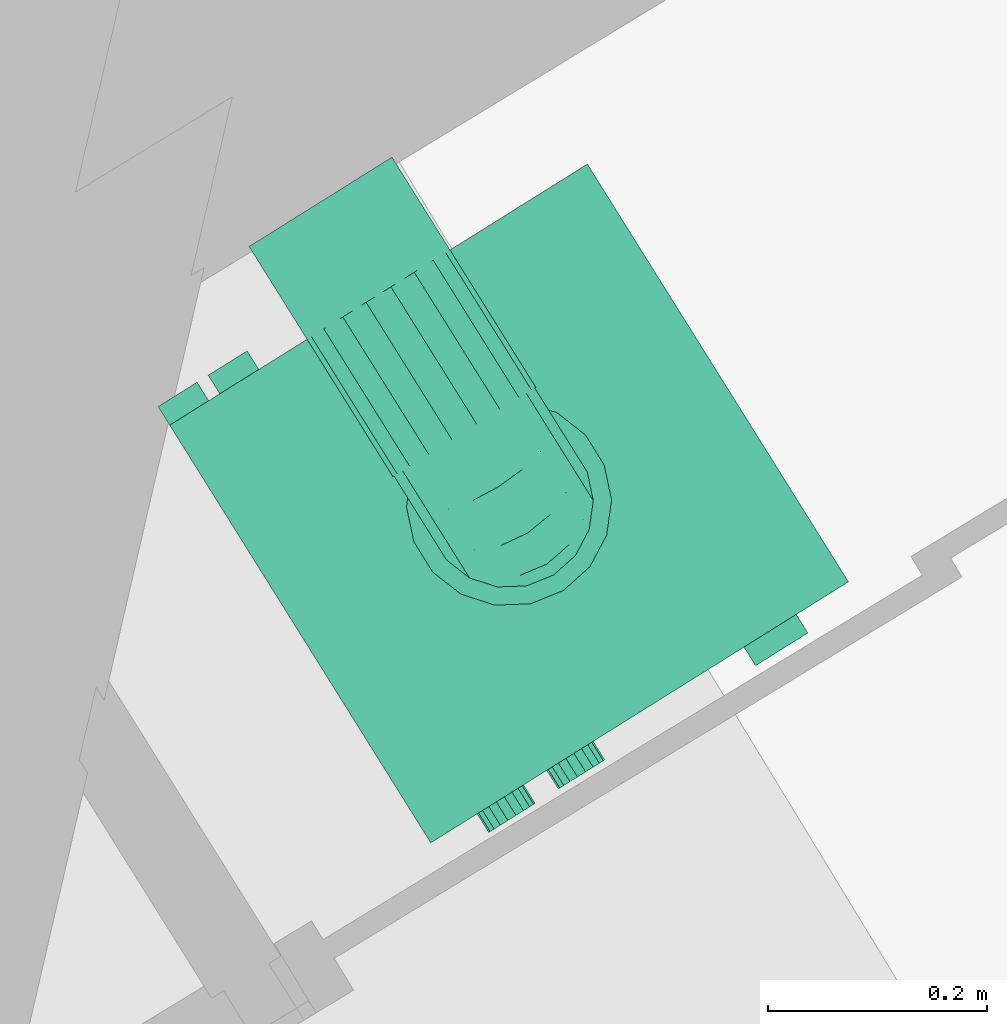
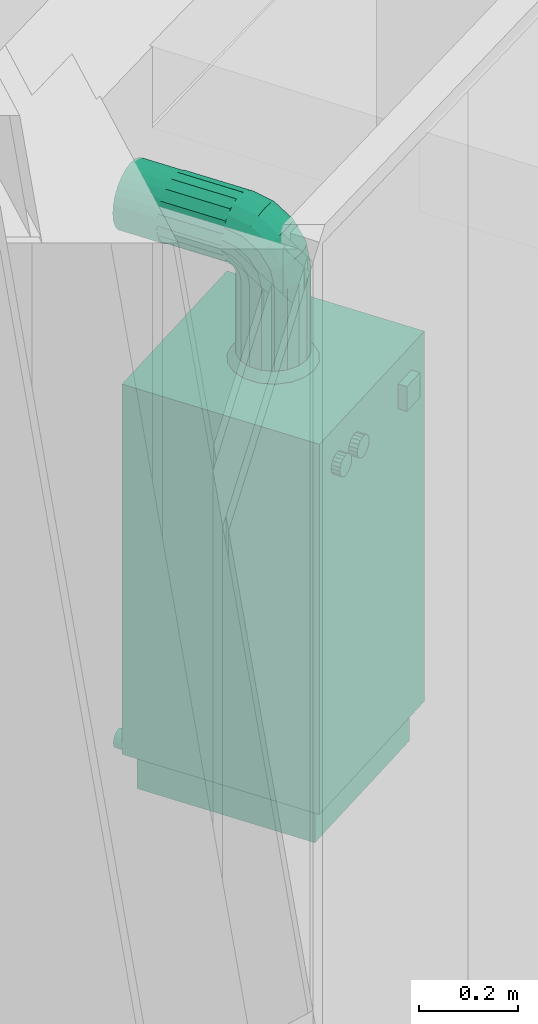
# One storey, part 83 of 90: 1 energy conversion device.
"""IFC2X3 building model written with IfcOpenShell, lengths in metres."""

from ifc_helpers import new_model, entity, si_unit, converted_unit, derived_unit, money_unit, direction, frame, origin_with_axes, place, context, subcontext, project, spatial, open_shell, faceted_brep, surface_model, source, transform, mapped, type_object, element, save


model = new_model("IFC2X3")

# Units and contexts
model_context = context("Model", 3, precision=1e-05, world=origin_with_axes(), true_north=direction((0.0, 1.0)))
body_context = subcontext(model_context, "Body", "Model", "MODEL_VIEW")
ifc_project = project(units=[si_unit("LENGTHUNIT", "METRE"), si_unit("AREAUNIT", "SQUARE_METRE"), si_unit("VOLUMEUNIT", "CUBIC_METRE"), converted_unit("PLANEANGLEUNIT", "DEGREE", entity("IfcPlaneAngleMeasure", 0.0174532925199), si_unit("PLANEANGLEUNIT", "RADIAN"), dimensions=[0, 0, 0, 0, 0, 0, 0]), si_unit("SOLIDANGLEUNIT", "STERADIAN"), money_unit("EUR"), converted_unit("TIMEUNIT", "Year", entity("IfcTimeMeasure", 31556926.0), si_unit("TIMEUNIT", "SECOND"), dimensions=[0, 0, 1, 0, 0, 0, 0]), si_unit("MASSUNIT", "GRAM", prefix="KILO"), si_unit("THERMODYNAMICTEMPERATUREUNIT", "DEGREE_CELSIUS"), si_unit("LUMINOUSINTENSITYUNIT", "LUMEN"), si_unit("ENERGYUNIT", "JOULE", prefix="MEGA"), derived_unit("THERMALCONDUCTANCEUNIT", [(si_unit("POWERUNIT", "WATT"), 1), (si_unit("LENGTHUNIT", "METRE"), -1), (si_unit("THERMODYNAMICTEMPERATUREUNIT", "KELVIN"), -1)]), derived_unit("SPECIFICHEATCAPACITYUNIT", [(si_unit("ENERGYUNIT", "JOULE"), 1), (si_unit("MASSUNIT", "GRAM", prefix="KILO"), -1), (si_unit("THERMODYNAMICTEMPERATUREUNIT", "KELVIN"), -1)]), derived_unit("MASSDENSITYUNIT", [(si_unit("MASSUNIT", "GRAM", prefix="KILO"), 1), (si_unit("VOLUMEUNIT", "CUBIC_METRE"), -1)])], contexts=[model_context])

# Site, building, storey
site_placement = place(None, origin_with_axes())
site = spatial("IfcSite", under=ifc_project, at=site_placement, Name="Site", CompositionType="ELEMENT")
building_placement = place(site_placement, origin_with_axes())
building = spatial("IfcBuilding", under=site, at=building_placement, Name="Bâtiment", CompositionType="ELEMENT")
storey_placement = place(building_placement, frame((0.0, 0.0, 2.72), z_axis=(0.0, 0.0, 1.0), x_axis=(1.0, 0.0, 0.0)))
storey = spatial("IfcBuildingStorey", under=building, at=storey_placement, Name="R+1", CompositionType="ELEMENT", Elevation=2.72)

# Energy conversion device
boiler_type = type_object("IfcBoilerType", Name="Chaudière à gaz 23", PredefinedType="WATER")
shared_shape = source(origin_with_axes(), body_context, "Body", "SurfaceModel", [
    surface_model("IfcShellBasedSurfaceModel", [(-0.2, 0.45, 0.090909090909), (-0.2, 0.47, 0.090909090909), (-0.194564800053, 0.47, 0.0916246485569), (-0.194564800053, 0.45, 0.0916246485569), (-0.205435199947, 0.45, 0.0916246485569), (-0.205435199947, 0.47, 0.0916246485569), (-0.1895, 0.47, 0.0937225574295), (-0.1895, 0.45, 0.0937225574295), (-0.2105, 0.45, 0.0937225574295), (-0.2105, 0.47, 0.0937225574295), (-0.185150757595, 0.47, 0.0970598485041), (-0.185150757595, 0.45, 0.0970598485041), (-0.214849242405, 0.45, 0.0970598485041), (-0.214849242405, 0.47, 0.0970598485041), (-0.181813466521, 0.47, 0.101409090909), (-0.181813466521, 0.45, 0.101409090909), (-0.218186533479, 0.45, 0.101409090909), (-0.218186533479, 0.47, 0.101409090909), (-0.179715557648, 0.47, 0.106473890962), (-0.179715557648, 0.45, 0.106473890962), (-0.220284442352, 0.45, 0.106473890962), (-0.220284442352, 0.47, 0.106473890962), (-0.179, 0.47, 0.111909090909), (-0.179, 0.45, 0.111909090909), (-0.221, 0.45, 0.111909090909), (-0.221, 0.47, 0.111909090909), (-0.179715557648, 0.47, 0.117344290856), (-0.179715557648, 0.45, 0.117344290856), (-0.220284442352, 0.45, 0.117344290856), (-0.220284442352, 0.47, 0.117344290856), (-0.181813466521, 0.47, 0.122409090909), (-0.181813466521, 0.45, 0.122409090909), (-0.218186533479, 0.45, 0.122409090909), (-0.218186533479, 0.47, 0.122409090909), (-0.185150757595, 0.47, 0.126758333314), (-0.185150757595, 0.45, 0.126758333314), (-0.214849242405, 0.45, 0.126758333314), (-0.214849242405, 0.47, 0.126758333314), (-0.1895, 0.47, 0.130095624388), (-0.1895, 0.45, 0.130095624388), (-0.2105, 0.45, 0.130095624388), (-0.2105, 0.47, 0.130095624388), (-0.194564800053, 0.47, 0.132193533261), (-0.194564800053, 0.45, 0.132193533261), (-0.205435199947, 0.45, 0.132193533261), (-0.205435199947, 0.47, 0.132193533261), (-0.2, 0.47, 0.132909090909), (-0.2, 0.45, 0.132909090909)], [open_shell([[[0, 1, 2, 3]], [[4, 5, 1, 0]], [[3, 2, 6, 7]], [[8, 9, 5, 4]], [[7, 6, 10, 11]], [[12, 13, 9, 8]], [[11, 10, 14, 15]], [[16, 17, 13, 12]], [[15, 14, 18, 19]], [[20, 21, 17, 16]], [[19, 18, 22, 23]], [[24, 25, 21, 20]], [[23, 22, 26, 27]], [[28, 29, 25, 24]], [[27, 26, 30, 31]], [[32, 33, 29, 28]], [[31, 30, 34, 35]], [[36, 37, 33, 32]], [[35, 34, 38, 39]], [[40, 41, 37, 36]], [[39, 38, 42, 43]], [[44, 45, 41, 40]], [[43, 42, 46, 47]], [[47, 46, 45, 44]]])]),
    surface_model("IfcShellBasedSurfaceModel", [(-0.375, 0.45, 0.090909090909), (-0.375, 0.47, 0.090909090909), (-0.369564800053, 0.47, 0.0916246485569), (-0.369564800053, 0.45, 0.0916246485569), (-0.380435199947, 0.45, 0.0916246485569), (-0.380435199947, 0.47, 0.0916246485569), (-0.3645, 0.47, 0.0937225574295), (-0.3645, 0.45, 0.0937225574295), (-0.3855, 0.45, 0.0937225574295), (-0.3855, 0.47, 0.0937225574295), (-0.360150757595, 0.47, 0.0970598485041), (-0.360150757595, 0.45, 0.0970598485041), (-0.389849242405, 0.45, 0.0970598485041), (-0.389849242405, 0.47, 0.0970598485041), (-0.356813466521, 0.47, 0.101409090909), (-0.356813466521, 0.45, 0.101409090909), (-0.393186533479, 0.45, 0.101409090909), (-0.393186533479, 0.47, 0.101409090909), (-0.354715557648, 0.47, 0.106473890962), (-0.354715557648, 0.45, 0.106473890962), (-0.395284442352, 0.45, 0.106473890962), (-0.395284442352, 0.47, 0.106473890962), (-0.354, 0.47, 0.111909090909), (-0.354, 0.45, 0.111909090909), (-0.396, 0.45, 0.111909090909), (-0.396, 0.47, 0.111909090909), (-0.354715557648, 0.47, 0.117344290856), (-0.354715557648, 0.45, 0.117344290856), (-0.395284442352, 0.45, 0.117344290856), (-0.395284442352, 0.47, 0.117344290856), (-0.356813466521, 0.47, 0.122409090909), (-0.356813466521, 0.45, 0.122409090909), (-0.393186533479, 0.45, 0.122409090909), (-0.393186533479, 0.47, 0.122409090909), (-0.360150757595, 0.47, 0.126758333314), (-0.360150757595, 0.45, 0.126758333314), (-0.389849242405, 0.45, 0.126758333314), (-0.389849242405, 0.47, 0.126758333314), (-0.3645, 0.47, 0.130095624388), (-0.3645, 0.45, 0.130095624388), (-0.3855, 0.45, 0.130095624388), (-0.3855, 0.47, 0.130095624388), (-0.369564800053, 0.47, 0.132193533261), (-0.369564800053, 0.45, 0.132193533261), (-0.380435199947, 0.45, 0.132193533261), (-0.380435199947, 0.47, 0.132193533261), (-0.375, 0.47, 0.132909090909), (-0.375, 0.45, 0.132909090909)], [open_shell([[[0, 1, 2, 3]], [[4, 5, 1, 0]], [[3, 2, 6, 7]], [[8, 9, 5, 4]], [[7, 6, 10, 11]], [[12, 13, 9, 8]], [[11, 10, 14, 15]], [[16, 17, 13, 12]], [[15, 14, 18, 19]], [[20, 21, 17, 16]], [[19, 18, 22, 23]], [[24, 25, 21, 20]], [[23, 22, 26, 27]], [[28, 29, 25, 24]], [[27, 26, 30, 31]], [[32, 33, 29, 28]], [[31, 30, 34, 35]], [[36, 37, 33, 32]], [[35, 34, 38, 39]], [[40, 41, 37, 36]], [[39, 38, 42, 43]], [[44, 45, 41, 40]], [[43, 42, 46, 47]], [[47, 46, 45, 44]]])]),
    surface_model("IfcShellBasedSurfaceModel", [(-0.429, 0.45, 0.090909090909), (-0.429, 0.47, 0.090909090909), (-0.423564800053, 0.47, 0.0916246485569), (-0.423564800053, 0.45, 0.0916246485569), (-0.434435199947, 0.45, 0.0916246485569), (-0.434435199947, 0.47, 0.0916246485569), (-0.4185, 0.47, 0.0937225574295), (-0.4185, 0.45, 0.0937225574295), (-0.4395, 0.45, 0.0937225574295), (-0.4395, 0.47, 0.0937225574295), (-0.414150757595, 0.47, 0.0970598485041), (-0.414150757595, 0.45, 0.0970598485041), (-0.443849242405, 0.45, 0.0970598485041), (-0.443849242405, 0.47, 0.0970598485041), (-0.410813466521, 0.47, 0.101409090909), (-0.410813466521, 0.45, 0.101409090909), (-0.447186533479, 0.45, 0.101409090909), (-0.447186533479, 0.47, 0.101409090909), (-0.408715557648, 0.47, 0.106473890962), (-0.408715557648, 0.45, 0.106473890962), (-0.449284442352, 0.45, 0.106473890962), (-0.449284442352, 0.47, 0.106473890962), (-0.408, 0.47, 0.111909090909), (-0.408, 0.45, 0.111909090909), (-0.45, 0.45, 0.111909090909), (-0.45, 0.47, 0.111909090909), (-0.408715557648, 0.47, 0.117344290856), (-0.408715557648, 0.45, 0.117344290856), (-0.449284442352, 0.45, 0.117344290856), (-0.449284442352, 0.47, 0.117344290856), (-0.410813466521, 0.47, 0.122409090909), (-0.410813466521, 0.45, 0.122409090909), (-0.447186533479, 0.45, 0.122409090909), (-0.447186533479, 0.47, 0.122409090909), (-0.414150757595, 0.47, 0.126758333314), (-0.414150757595, 0.45, 0.126758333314), (-0.443849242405, 0.45, 0.126758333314), (-0.443849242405, 0.47, 0.126758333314), (-0.4185, 0.47, 0.130095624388), (-0.4185, 0.45, 0.130095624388), (-0.4395, 0.45, 0.130095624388), (-0.4395, 0.47, 0.130095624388), (-0.423564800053, 0.47, 0.132193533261), (-0.423564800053, 0.45, 0.132193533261), (-0.434435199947, 0.45, 0.132193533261), (-0.434435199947, 0.47, 0.132193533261), (-0.429, 0.47, 0.132909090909), (-0.429, 0.45, 0.132909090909)], [open_shell([[[0, 1, 2, 3]], [[4, 5, 1, 0]], [[3, 2, 6, 7]], [[8, 9, 5, 4]], [[7, 6, 10, 11]], [[12, 13, 9, 8]], [[11, 10, 14, 15]], [[16, 17, 13, 12]], [[15, 14, 18, 19]], [[20, 21, 17, 16]], [[19, 18, 22, 23]], [[24, 25, 21, 20]], [[23, 22, 26, 27]], [[28, 29, 25, 24]], [[27, 26, 30, 31]], [[32, 33, 29, 28]], [[31, 30, 34, 35]], [[36, 37, 33, 32]], [[35, 34, 38, 39]], [[40, 41, 37, 36]], [[39, 38, 42, 43]], [[44, 45, 41, 40]], [[43, 42, 46, 47]], [[47, 46, 45, 44]]])]),
    surface_model("IfcShellBasedSurfaceModel", [(-0.225, 0.45, 1.218), (-0.225, 0.55, 1.218), (-0.205070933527, 0.55, 1.22062371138), (-0.205070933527, 0.45, 1.22062371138), (-0.244929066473, 0.45, 1.22062371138), (-0.244929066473, 0.55, 1.22062371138), (-0.1865, 0.55, 1.22831604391), (-0.1865, 0.45, 1.22831604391), (-0.2635, 0.45, 1.22831604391), (-0.2635, 0.55, 1.22831604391), (-0.170552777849, 0.55, 1.24055277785), (-0.170552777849, 0.45, 1.24055277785), (-0.279447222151, 0.45, 1.24055277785), (-0.279447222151, 0.55, 1.24055277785), (-0.158316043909, 0.55, 1.2565), (-0.158316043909, 0.45, 1.2565), (-0.291683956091, 0.45, 1.2565), (-0.291683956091, 0.55, 1.2565), (-0.150623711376, 0.55, 1.27507093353), (-0.150623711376, 0.45, 1.27507093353), (-0.299376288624, 0.45, 1.27507093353), (-0.299376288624, 0.55, 1.27507093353), (-0.148, 0.55, 1.295), (-0.148, 0.45, 1.295), (-0.302, 0.45, 1.295), (-0.302, 0.55, 1.295), (-0.150623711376, 0.55, 1.31492906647), (-0.150623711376, 0.45, 1.31492906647), (-0.299376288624, 0.45, 1.31492906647), (-0.299376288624, 0.55, 1.31492906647), (-0.158316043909, 0.55, 1.3335), (-0.158316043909, 0.45, 1.3335), (-0.291683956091, 0.45, 1.3335), (-0.291683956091, 0.55, 1.3335), (-0.170552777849, 0.55, 1.34944722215), (-0.170552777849, 0.45, 1.34944722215), (-0.279447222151, 0.45, 1.34944722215), (-0.279447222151, 0.55, 1.34944722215), (-0.1865, 0.55, 1.36168395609), (-0.1865, 0.45, 1.36168395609), (-0.2635, 0.45, 1.36168395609), (-0.2635, 0.55, 1.36168395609), (-0.205070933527, 0.55, 1.36937628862), (-0.205070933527, 0.45, 1.36937628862), (-0.244929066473, 0.45, 1.36937628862), (-0.244929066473, 0.55, 1.36937628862), (-0.225, 0.55, 1.372), (-0.225, 0.45, 1.372)], [open_shell([[[0, 1, 2, 3]], [[4, 5, 1, 0]], [[3, 2, 6, 7]], [[8, 9, 5, 4]], [[7, 6, 10, 11]], [[12, 13, 9, 8]], [[11, 10, 14, 15]], [[16, 17, 13, 12]], [[15, 14, 18, 19]], [[20, 21, 17, 16]], [[19, 18, 22, 23]], [[24, 25, 21, 20]], [[23, 22, 26, 27]], [[28, 29, 25, 24]], [[27, 26, 30, 31]], [[32, 33, 29, 28]], [[31, 30, 34, 35]], [[36, 37, 33, 32]], [[35, 34, 38, 39]], [[40, 41, 37, 36]], [[39, 38, 42, 43]], [[44, 45, 41, 40]], [[43, 42, 46, 47]], [[47, 46, 45, 44]]])]),
    faceted_brep([(-0.4275, 0.0225, 0.0), (-0.4275, 0.4275, 0.0), (-0.0225, 0.4275, 0.0), (-0.0225, 0.0225, 0.0), (-0.4275, 0.0225, 0.0909090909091), (-0.4275, 0.4275, 0.0909090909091), (-0.0225, 0.4275, 0.0909090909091), (-0.0225, 0.0225, 0.0909090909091)], [[[0, 1, 2, 3]], [[0, 4, 5, 1]], [[1, 5, 6, 2]], [[2, 6, 7, 3]], [[3, 7, 4, 0]], [[7, 6, 5, 4]]]),
    faceted_brep([(0.0, 0.45, 0.0909090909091), (-0.45, 0.45, 0.0909090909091), (-0.45, 0.45, 1.0), (0.0, 0.45, 1.0), (0.0, 0.0, 0.0909090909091), (-0.45, 0.0, 0.0909090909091), (-0.45, 0.0, 0.818181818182), (-0.45, 0.0225, 0.818181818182), (-0.45, 0.0225, 1.0), (0.0, 0.0225, 1.0), (0.0, 0.0225, 0.818181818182), (0.0, 0.0, 0.818181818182)], [[[0, 1, 2, 3]], [[4, 5, 1, 0]], [[1, 5, 6, 7, 8, 2]], [[3, 2, 8, 9]], [[0, 3, 9, 10, 11, 4]], [[11, 6, 5, 4]], [[10, 7, 6, 11]], [[9, 8, 7, 10]]]),
    faceted_brep([(-0.45, 0.0, 0.818181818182), (-0.45, 0.0225, 0.818181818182), (0.0, 0.0225, 0.818181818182), (0.0, 0.0, 0.818181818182), (-0.45, 0.0, 1.0), (-0.45, 0.0225, 1.0), (0.0, 0.0225, 1.0), (0.0, 0.0, 1.0)], [[[0, 1, 2, 3]], [[0, 4, 5, 1]], [[1, 5, 6, 2]], [[2, 6, 7, 3]], [[3, 7, 4, 0]], [[7, 6, 5, 4]]]),
    faceted_brep([(-0.32349231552, 0.0, 0.900540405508), (-0.325, 0.0, 0.909090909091), (-0.32349231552, 0.0, 0.917641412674), (-0.319151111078, 0.0, 0.925160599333), (-0.3125, 0.0, 0.930741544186), (-0.304341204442, 0.0, 0.933711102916), (-0.295658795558, 0.0, 0.933711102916), (-0.2875, 0.0, 0.930741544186), (-0.280848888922, 0.0, 0.925160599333), (-0.27650768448, 0.0, 0.917641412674), (-0.275, 0.0, 0.909090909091), (-0.27650768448, 0.0, 0.900540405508), (-0.280848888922, 0.0, 0.893021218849), (-0.2875, 0.0, 0.887440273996), (-0.295658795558, 0.0, 0.884470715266), (-0.304341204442, 0.0, 0.884470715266), (-0.3125, 0.0, 0.887440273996), (-0.319151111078, 0.0, 0.893021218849), (-0.32349231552, -0.02, 0.900540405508), (-0.325, -0.02, 0.909090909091), (-0.32349231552, -0.02, 0.917641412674), (-0.319151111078, -0.02, 0.925160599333), (-0.3125, -0.02, 0.930741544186), (-0.304341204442, -0.02, 0.933711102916), (-0.295658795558, -0.02, 0.933711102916), (-0.2875, -0.02, 0.930741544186), (-0.280848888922, -0.02, 0.925160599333), (-0.27650768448, -0.02, 0.917641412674), (-0.275, -0.02, 0.909090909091), (-0.27650768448, -0.02, 0.900540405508), (-0.280848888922, -0.02, 0.893021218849), (-0.2875, -0.02, 0.887440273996), (-0.295658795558, -0.02, 0.884470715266), (-0.304341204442, -0.02, 0.884470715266), (-0.3125, -0.02, 0.887440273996), (-0.319151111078, -0.02, 0.893021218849)], [[[0, 1, 2, 3, 4, 5, 6, 7, 8, 9, 10, 11, 12, 13, 14, 15, 16, 17]], [[0, 18, 19, 1]], [[1, 19, 20, 2]], [[2, 20, 21, 3]], [[3, 21, 22, 4]], [[4, 22, 23, 5]], [[5, 23, 24, 6]], [[6, 24, 25, 7]], [[7, 25, 26, 8]], [[8, 26, 27, 9]], [[9, 27, 28, 10]], [[10, 28, 29, 11]], [[11, 29, 30, 12]], [[12, 30, 31, 13]], [[13, 31, 32, 14]], [[14, 32, 33, 15]], [[15, 33, 34, 16]], [[16, 34, 35, 17]], [[17, 35, 18, 0]], [[18, 35, 34, 33, 32, 31, 30, 29, 28, 27, 26, 25, 24, 23, 22, 21, 20, 19]]]),
    faceted_brep([(-0.39849231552, 0.0, 0.900540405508), (-0.4, 0.0, 0.909090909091), (-0.39849231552, 0.0, 0.917641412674), (-0.394151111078, 0.0, 0.925160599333), (-0.3875, 0.0, 0.930741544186), (-0.379341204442, 0.0, 0.933711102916), (-0.370658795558, 0.0, 0.933711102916), (-0.3625, 0.0, 0.930741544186), (-0.355848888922, 0.0, 0.925160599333), (-0.35150768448, 0.0, 0.917641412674), (-0.35, 0.0, 0.909090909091), (-0.35150768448, 0.0, 0.900540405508), (-0.355848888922, 0.0, 0.893021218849), (-0.3625, 0.0, 0.887440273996), (-0.370658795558, 0.0, 0.884470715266), (-0.379341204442, 0.0, 0.884470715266), (-0.3875, 0.0, 0.887440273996), (-0.394151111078, 0.0, 0.893021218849), (-0.39849231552, -0.02, 0.900540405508), (-0.4, -0.02, 0.909090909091), (-0.39849231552, -0.02, 0.917641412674), (-0.394151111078, -0.02, 0.925160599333), (-0.3875, -0.02, 0.930741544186), (-0.379341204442, -0.02, 0.933711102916), (-0.370658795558, -0.02, 0.933711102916), (-0.3625, -0.02, 0.930741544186), (-0.355848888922, -0.02, 0.925160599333), (-0.35150768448, -0.02, 0.917641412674), (-0.35, -0.02, 0.909090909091), (-0.35150768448, -0.02, 0.900540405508), (-0.355848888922, -0.02, 0.893021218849), (-0.3625, -0.02, 0.887440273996), (-0.370658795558, -0.02, 0.884470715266), (-0.379341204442, -0.02, 0.884470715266), (-0.3875, -0.02, 0.887440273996), (-0.394151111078, -0.02, 0.893021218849)], [[[0, 1, 2, 3, 4, 5, 6, 7, 8, 9, 10, 11, 12, 13, 14, 15, 16, 17]], [[0, 18, 19, 1]], [[1, 19, 20, 2]], [[2, 20, 21, 3]], [[3, 21, 22, 4]], [[4, 22, 23, 5]], [[5, 23, 24, 6]], [[6, 24, 25, 7]], [[7, 25, 26, 8]], [[8, 26, 27, 9]], [[9, 27, 28, 10]], [[10, 28, 29, 11]], [[11, 29, 30, 12]], [[12, 30, 31, 13]], [[13, 31, 32, 14]], [[14, 32, 33, 15]], [[15, 33, 34, 16]], [[16, 34, 35, 17]], [[17, 35, 18, 0]], [[18, 35, 34, 33, 32, 31, 30, 29, 28, 27, 26, 25, 24, 23, 22, 21, 20, 19]]]),
    faceted_brep([(-0.1125, 0.0, 0.878787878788), (-0.1125, 0.0, 0.939393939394), (-0.05625, 0.0, 0.939393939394), (-0.05625, 0.0, 0.878787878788), (-0.1125, -0.02, 0.878787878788), (-0.1125, -0.02, 0.939393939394), (-0.05625, -0.02, 0.939393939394), (-0.05625, -0.02, 0.878787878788)], [[[0, 1, 2, 3]], [[0, 4, 5, 1]], [[1, 5, 6, 2]], [[2, 6, 7, 3]], [[3, 7, 4, 0]], [[7, 6, 5, 4]]]),
    surface_model("IfcShellBasedSurfaceModel", [(-0.198664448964, 0.297356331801, 1.22), (-0.198664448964, 0.297356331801, 1.02), (-0.225, 0.302, 1.02), (-0.225, 0.302, 1.22), (-0.175505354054, 0.28398542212, 1.22), (-0.175505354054, 0.28398542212, 1.02), (-0.192935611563, 0.313096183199, 1.0), (-0.225, 0.31875, 1.0), (-0.251335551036, 0.297356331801, 1.02), (-0.251335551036, 0.297356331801, 1.22), (-0.158316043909, 0.2635, 1.22), (-0.158316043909, 0.2635, 1.02), (-0.164738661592, 0.296816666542, 1.0), (-0.257064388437, 0.313096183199, 1.0), (-0.274494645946, 0.28398542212, 1.02), (-0.274494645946, 0.28398542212, 1.22), (-0.149169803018, 0.23837090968, 1.22), (-0.149169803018, 0.23837090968, 1.02), (-0.143810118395, 0.271875, 1.0), (-0.285261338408, 0.296816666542, 1.0), (-0.291683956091, 0.2635, 1.02), (-0.291683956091, 0.2635, 1.22), (-0.149169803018, 0.21162909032, 1.22), (-0.149169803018, 0.21162909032, 1.02), (-0.132674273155, 0.241279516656, 1.0), (-0.306189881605, 0.271875, 1.0), (-0.300830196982, 0.23837090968, 1.02), (-0.300830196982, 0.23837090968, 1.22), (-0.158316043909, 0.1865, 1.22), (-0.158316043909, 0.1865, 1.02), (-0.132674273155, 0.208720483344, 1.0), (-0.317325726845, 0.241279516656, 1.0), (-0.300830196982, 0.21162909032, 1.02), (-0.300830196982, 0.21162909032, 1.22), (-0.175505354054, 0.16601457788, 1.22), (-0.175505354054, 0.16601457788, 1.02), (-0.143810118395, 0.178125, 1.0), (-0.317325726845, 0.208720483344, 1.0), (-0.291683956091, 0.1865, 1.02), (-0.291683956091, 0.1865, 1.22), (-0.198664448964, 0.152643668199, 1.22), (-0.198664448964, 0.152643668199, 1.02), (-0.164738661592, 0.153183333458, 1.0), (-0.306189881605, 0.178125, 1.0), (-0.274494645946, 0.16601457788, 1.02), (-0.274494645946, 0.16601457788, 1.22), (-0.225, 0.148, 1.22), (-0.225, 0.148, 1.02), (-0.192935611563, 0.136903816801, 1.0), (-0.285261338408, 0.153183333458, 1.0), (-0.251335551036, 0.152643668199, 1.02), (-0.251335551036, 0.152643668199, 1.22), (-0.225, 0.13125, 1.0), (-0.257064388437, 0.136903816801, 1.0)], [open_shell([[[0, 1, 2, 3]], [[4, 5, 1, 0]], [[1, 6, 7, 2]], [[3, 2, 8, 9]], [[10, 11, 5, 4]], [[5, 12, 6, 1]], [[2, 7, 13, 8]], [[9, 8, 14, 15]], [[16, 17, 11, 10]], [[11, 18, 12, 5]], [[8, 13, 19, 14]], [[15, 14, 20, 21]], [[22, 23, 17, 16]], [[17, 24, 18, 11]], [[14, 19, 25, 20]], [[21, 20, 26, 27]], [[28, 29, 23, 22]], [[23, 30, 24, 17]], [[20, 25, 31, 26]], [[27, 26, 32, 33]], [[34, 35, 29, 28]], [[29, 36, 30, 23]], [[26, 31, 37, 32]], [[33, 32, 38, 39]], [[40, 41, 35, 34]], [[35, 42, 36, 29]], [[32, 37, 43, 38]], [[39, 38, 44, 45]], [[46, 47, 41, 40]], [[41, 48, 42, 35]], [[38, 43, 49, 44]], [[45, 44, 50, 51]], [[51, 50, 47, 46]], [[47, 52, 48, 41]], [[44, 49, 53, 50]], [[50, 53, 52, 47]]])]),
    faceted_brep([(-0.300830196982, 0.218508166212, 1.2545834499), (-0.300830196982, 0.21162909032, 1.22), (-0.291683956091, 0.1865, 1.22), (-0.291683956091, 0.195291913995, 1.26419993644), (-0.300830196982, 0.243214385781, 1.24434979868), (-0.300830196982, 0.23837090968, 1.22), (-0.291683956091, 0.2635, 1.22), (-0.274494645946, 0.28398542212, 1.22), (-0.251335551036, 0.297356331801, 1.22), (-0.225, 0.302, 1.22), (-0.198664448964, 0.297356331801, 1.22), (-0.175505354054, 0.28398542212, 1.22), (-0.158316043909, 0.2635, 1.22), (-0.149169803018, 0.23837090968, 1.22), (-0.149169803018, 0.21162909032, 1.22), (-0.158316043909, 0.1865, 1.22), (-0.175505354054, 0.16601457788, 1.22), (-0.198664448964, 0.152643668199, 1.22), (-0.225, 0.148, 1.22), (-0.251335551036, 0.152643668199, 1.22), (-0.274494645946, 0.16601457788, 1.22), (-0.274494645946, 0.176365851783, 1.27203936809), (-0.300830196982, 0.238098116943, 1.28390188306), (-0.291683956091, 0.220329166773, 1.30167083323), (-0.300830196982, 0.257007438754, 1.26499256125), (-0.291683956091, 0.266430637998, 1.23473331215), (-0.274494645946, 0.28535670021, 1.2268938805), (-0.251335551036, 0.297709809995, 1.22177705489), (-0.198664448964, 0.297709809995, 1.22177705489), (-0.175505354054, 0.28535670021, 1.2268938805), (-0.158316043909, 0.266430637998, 1.23473331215), (-0.149169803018, 0.243214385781, 1.24434979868), (-0.149169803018, 0.218508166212, 1.2545834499), (-0.158316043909, 0.195291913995, 1.26419993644), (-0.175505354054, 0.176365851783, 1.27203936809), (-0.198664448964, 0.164012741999, 1.2771561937), (-0.225, 0.159722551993, 1.27893324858), (-0.251335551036, 0.164012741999, 1.2771561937), (-0.274494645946, 0.205843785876, 1.31615621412), (-0.291683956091, 0.257800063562, 1.32670808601), (-0.300830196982, 0.267416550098, 1.30349183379), (-0.300830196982, 0.277650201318, 1.27878561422), (-0.291683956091, 0.274776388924, 1.24722361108), (-0.274494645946, 0.289261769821, 1.23273823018), (-0.251335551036, 0.298716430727, 1.22328356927), (-0.198664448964, 0.298716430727, 1.22328356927), (-0.175505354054, 0.289261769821, 1.23273823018), (-0.158316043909, 0.274776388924, 1.24722361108), (-0.149169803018, 0.257007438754, 1.26499256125), (-0.149169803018, 0.238098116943, 1.28390188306), (-0.158316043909, 0.220329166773, 1.30167083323), (-0.175505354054, 0.205843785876, 1.31615621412), (-0.198664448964, 0.196389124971, 1.32561087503), (-0.225, 0.193105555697, 1.3288944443), (-0.251335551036, 0.196389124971, 1.32561087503), (-0.274494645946, 0.249960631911, 1.34563414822), (-0.291683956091, 0.302, 1.3355), (-0.300830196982, 0.302, 1.31037090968), (-0.300830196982, 0.302, 1.28362909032), (-0.291683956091, 0.287266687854, 1.255569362), (-0.274494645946, 0.295106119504, 1.23664329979), (-0.251335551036, 0.300222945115, 1.22429019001), (-0.198664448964, 0.300222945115, 1.22429019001), (-0.175505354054, 0.295106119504, 1.23664329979), (-0.158316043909, 0.287266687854, 1.255569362), (-0.149169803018, 0.277650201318, 1.27878561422), (-0.149169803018, 0.267416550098, 1.30349183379), (-0.158316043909, 0.257800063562, 1.32670808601), (-0.175505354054, 0.249960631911, 1.34563414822), (-0.198664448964, 0.244843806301, 1.357987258), (-0.225, 0.243066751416, 1.36227744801), (-0.251335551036, 0.244843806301, 1.357987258), (-0.274494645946, 0.302, 1.35598542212), (-0.291683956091, 0.302, 1.2585), (-0.251335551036, 0.302, 1.3693563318), (-0.225, 0.302, 1.374), (-0.198664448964, 0.302, 1.3693563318), (-0.175505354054, 0.302, 1.35598542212), (-0.158316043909, 0.302, 1.3355), (-0.149169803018, 0.302, 1.31037090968), (-0.149169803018, 0.302, 1.28362909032), (-0.158316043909, 0.302, 1.2585), (-0.175505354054, 0.302, 1.23801457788), (-0.198664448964, 0.302, 1.2246436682), (-0.251335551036, 0.302, 1.2246436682), (-0.274494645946, 0.302, 1.23801457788)], [[[0, 1, 2, 3]], [[1, 0, 4, 5]], [[2, 1, 5, 6, 7, 8, 9, 10, 11, 12, 13, 14, 15, 16, 17, 18, 19, 20]], [[3, 2, 20, 21]], [[22, 0, 3, 23]], [[0, 22, 24, 4]], [[6, 5, 4, 25]], [[26, 7, 6, 25]], [[7, 26, 27, 8]], [[8, 27, 9]], [[28, 10, 9]], [[10, 28, 29, 11]], [[30, 12, 11, 29]], [[12, 30, 31, 13]], [[32, 14, 13, 31]], [[15, 14, 32, 33]], [[34, 16, 15, 33]], [[17, 16, 34, 35]], [[36, 18, 17, 35]], [[19, 18, 36, 37]], [[21, 20, 19, 37]], [[23, 3, 21, 38]], [[22, 23, 39, 40]], [[24, 22, 40, 41]], [[4, 24, 42, 25]], [[43, 26, 25, 42]], [[26, 43, 44, 27]], [[27, 44, 9]], [[45, 28, 9]], [[28, 45, 46, 29]], [[29, 46, 47, 30]], [[31, 30, 47, 48]], [[49, 32, 31, 48]], [[32, 49, 50, 33]], [[51, 34, 33, 50]], [[35, 34, 51, 52]], [[53, 36, 35, 52]], [[54, 37, 36, 53]], [[38, 21, 37, 54]], [[39, 23, 38, 55]], [[40, 39, 56, 57]], [[41, 40, 57, 58]], [[59, 42, 24, 41]], [[42, 59, 60, 43]], [[43, 60, 61, 44]], [[44, 61, 9]], [[62, 45, 9]], [[45, 62, 63, 46]], [[46, 63, 64, 47]], [[47, 64, 65, 48]], [[66, 49, 48, 65]], [[50, 49, 66, 67]], [[68, 51, 50, 67]], [[52, 51, 68, 69]], [[53, 52, 69, 70]], [[71, 54, 53, 70]], [[55, 38, 54, 71]], [[56, 39, 55, 72]], [[73, 58, 57, 56, 72, 74, 75, 76, 77, 78, 79, 80, 81, 82, 83, 9, 84, 85]], [[59, 41, 58, 73]], [[59, 73, 85, 60]], [[60, 85, 84, 61]], [[61, 84, 9]], [[62, 9, 83]], [[63, 62, 83, 82]], [[63, 82, 81, 64]], [[65, 64, 81, 80]], [[66, 65, 80, 79]], [[67, 66, 79, 78]], [[77, 68, 67, 78]], [[69, 68, 77, 76]], [[75, 70, 69, 76]], [[71, 70, 75, 74]], [[72, 55, 71, 74]]]),
    surface_model("IfcShellBasedSurfaceModel", [(-0.152643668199, 0.45, 1.32333555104), (-0.152643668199, 0.302, 1.32333555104), (-0.148, 0.302, 1.297), (-0.148, 0.45, 1.297), (-0.16601457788, 0.45, 1.34649464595), (-0.16601457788, 0.302, 1.34649464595), (-0.152643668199, 0.302, 1.27066444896), (-0.152643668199, 0.45, 1.27066444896), (-0.1865, 0.45, 1.36368395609), (-0.1865, 0.302, 1.36368395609), (-0.16601457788, 0.302, 1.24750535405), (-0.16601457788, 0.45, 1.24750535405), (-0.21162909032, 0.45, 1.37283019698), (-0.21162909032, 0.302, 1.37283019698), (-0.1865, 0.302, 1.23031604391), (-0.1865, 0.45, 1.23031604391), (-0.23837090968, 0.45, 1.37283019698), (-0.23837090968, 0.302, 1.37283019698), (-0.21162909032, 0.302, 1.22116980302), (-0.21162909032, 0.45, 1.22116980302), (-0.2635, 0.45, 1.36368395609), (-0.2635, 0.302, 1.36368395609), (-0.23837090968, 0.302, 1.22116980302), (-0.23837090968, 0.45, 1.22116980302), (-0.28398542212, 0.45, 1.34649464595), (-0.28398542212, 0.302, 1.34649464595), (-0.2635, 0.302, 1.23031604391), (-0.2635, 0.45, 1.23031604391), (-0.297356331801, 0.45, 1.32333555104), (-0.297356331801, 0.302, 1.32333555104), (-0.28398542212, 0.302, 1.24750535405), (-0.28398542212, 0.45, 1.24750535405), (-0.302, 0.45, 1.297), (-0.302, 0.302, 1.297), (-0.297356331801, 0.302, 1.27066444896), (-0.297356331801, 0.45, 1.27066444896)], [open_shell([[[0, 1, 2, 3]], [[4, 5, 1, 0]], [[3, 2, 6, 7]], [[8, 9, 5, 4]], [[7, 6, 10, 11]], [[12, 13, 9, 8]], [[11, 10, 14, 15]], [[16, 17, 13, 12]], [[15, 14, 18, 19]], [[20, 21, 17, 16]], [[19, 18, 22, 23]], [[24, 25, 21, 20]], [[23, 22, 26, 27]], [[28, 29, 25, 24]], [[27, 26, 30, 31]], [[32, 33, 29, 28]], [[31, 30, 34, 35]], [[35, 34, 33, 32]]])]),
])
energy_conversion_device_placement = place(storey_placement, frame((-5.9552693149, 17.1486524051, 0.9), z_axis=(0.0, 0.0, 1.0), x_axis=(0.848007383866, 0.52998441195, 0.0)))
element("IfcEnergyConversionDevice", 1, at=energy_conversion_device_placement, inside=storey, type_object=boiler_type, Name="MOB-002", context=body_context, shape_type="MappedRepresentation", body=[
    mapped(shared_shape, transform((0.0, 0.0, 0.0))),
])

save(model, "model.ifc")
